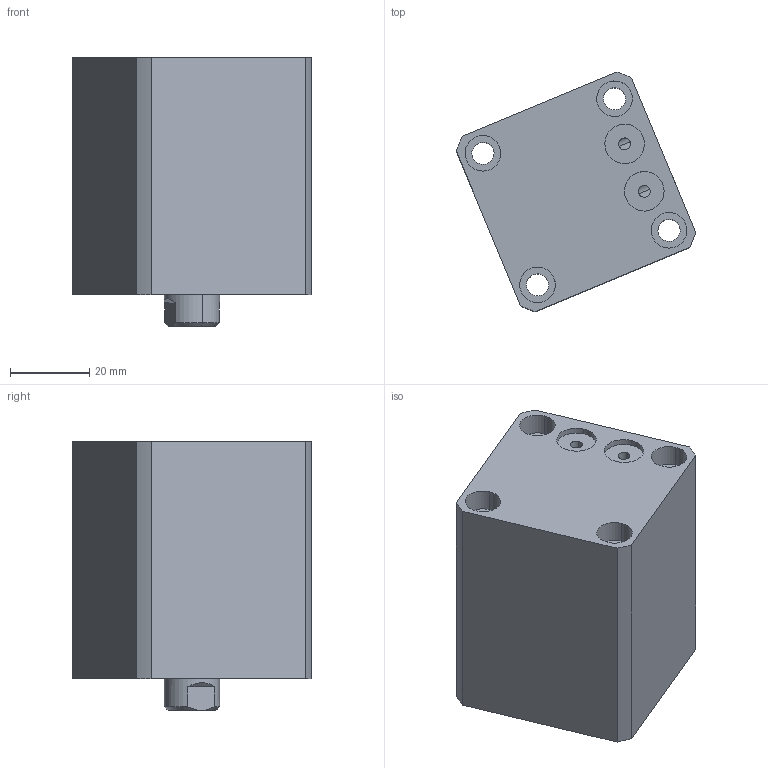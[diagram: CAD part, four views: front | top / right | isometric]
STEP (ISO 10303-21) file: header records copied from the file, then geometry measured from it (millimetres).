
FILE_DESCRIPTION (( 'STEP AP214' ), '1' );
FILE_NAME ('chtb-sdmb25x15n_asm.STEP', '2018-05-24T01:22:58', ( 'Windows' ), ( 'Microsoft' ), 'SwSTEP 2.0', 'SolidWorks 2015', '' );
FILE_SCHEMA (( 'AUTOMOTIVE_DESIGN' ));
Length unit declared in the file: millimetre
Products named in the file (4): CHTB-SDMB25X15NHSG; CHTB-SDMB25X15NBT; CHTB-25QG; chtb-sdmb25x15n_asm
Assembly tree (3 placements, depth 2):
  chtb-sdmb25x15n_asm
    CHTB-25QG
    CHTB-SDMB25X15NBT
    CHTB-SDMB25X15NHSG
Bounding box: 60.55 x 60.55 x 68 mm (x, y, z)
Volume: 122488.8 mm3; surface area: 35623.8 mm2
Topology: 3 solids, 3 shells, 142 faces, 379 edges, 257 vertices
Faces by surface type: cylinder 89, plane 34, bspline 10, cone 9
Entity records: 8024 total; most frequent: CARTESIAN_POINT 4397, ORIENTED_EDGE 746, DIRECTION 661, EDGE_CURVE 373, AXIS2_PLACEMENT_3D 272, VERTEX_POINT 257, EDGE_LOOP 180, FACE_OUTER_BOUND 142
